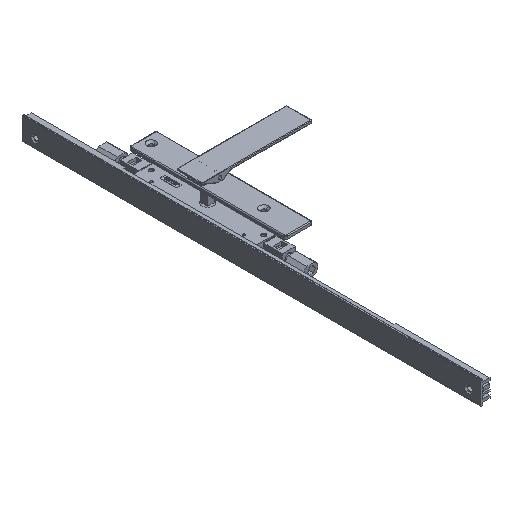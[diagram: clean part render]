
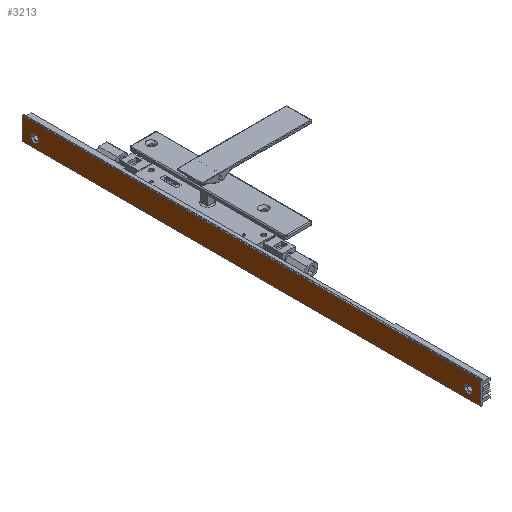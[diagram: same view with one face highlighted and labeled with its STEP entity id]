
A CAD part, isometric view. The second image highlights one B-rep face of the part: STEP entity #3213.
In plain terms, the highlighted planar face has unit normal (-1, 0, 0) as drawn and (0, 1, 0) by its records, which use the part's own axes.
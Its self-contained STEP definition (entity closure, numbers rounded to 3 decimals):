
#83 = ORIENTED_EDGE ( 'NONE', *, *, #19153, .F. ) ;
#342 = VERTEX_POINT ( 'NONE', #1711 ) ;
#411 = DIRECTION ( 'NONE',  ( 1., 0., 0. ) ) ;
#812 = FACE_BOUND ( 'NONE', #3819, .T. ) ;
#846 = CARTESIAN_POINT ( 'NONE',  ( 11.8, 12.4, 533.889 ) ) ;
#1057 = CARTESIAN_POINT ( 'NONE',  ( -4.4, 12.4, 0. ) ) ;
#1339 = VERTEX_POINT ( 'NONE', #5225 ) ;
#1711 = CARTESIAN_POINT ( 'NONE',  ( 22., 12.4, 0. ) ) ;
#1959 = VERTEX_POINT ( 'NONE', #16369 ) ;
#1973 = EDGE_CURVE ( 'NONE', #10733, #1339, #13163, .T. ) ;
#1977 = CARTESIAN_POINT ( 'NONE',  ( 11.8, 12.4, 19.89 ) ) ;
#2176 = CARTESIAN_POINT ( 'NONE',  ( 11.8, 12.4, 529. ) ) ;
#2256 = FACE_BOUND ( 'NONE', #7910, .T. ) ;
#2372 = CARTESIAN_POINT ( 'NONE',  ( 20.8, 12.4, 0. ) ) ;
#2800 = VERTEX_POINT ( 'NONE', #1977 ) ;
#3213 = ADVANCED_FACE ( 'NONE', ( #2256, #812, #12718 ), #16800, .F. ) ;
#3375 = ORIENTED_EDGE ( 'NONE', *, *, #3793, .F. ) ;
#3793 = EDGE_CURVE ( 'NONE', #17468, #18617, #16320, .T. ) ;
#3819 = EDGE_LOOP ( 'NONE', ( #7476, #3375 ) ) ;
#4428 = AXIS2_PLACEMENT_3D ( 'NONE', #15444, #5246, #411 ) ;
#4519 = EDGE_CURVE ( 'NONE', #342, #10733, #7124, .T. ) ;
#5113 = CARTESIAN_POINT ( 'NONE',  ( 22., 12.4, 0. ) ) ;
#5225 = CARTESIAN_POINT ( 'NONE',  ( -4.4, 12.4, 544. ) ) ;
#5246 = DIRECTION ( 'NONE',  ( 0., -1., 0. ) ) ;
#5578 = ORIENTED_EDGE ( 'NONE', *, *, #1973, .T. ) ;
#5842 = EDGE_CURVE ( 'NONE', #18617, #17468, #7924, .T. ) ;
#6221 = ORIENTED_EDGE ( 'NONE', *, *, #11228, .F. ) ;
#6502 = CARTESIAN_POINT ( 'NONE',  ( 11.8, 12.4, 15. ) ) ;
#6824 = EDGE_LOOP ( 'NONE', ( #18471, #5578, #6221, #12314 ) ) ;
#7124 = LINE ( 'NONE', #2372, #13899 ) ;
#7476 = ORIENTED_EDGE ( 'NONE', *, *, #5842, .F. ) ;
#7495 = CARTESIAN_POINT ( 'NONE',  ( 22., 12.4, 544. ) ) ;
#7823 = DIRECTION ( 'NONE',  ( 0., 0., 1. ) ) ;
#7910 = EDGE_LOOP ( 'NONE', ( #15127, #83 ) ) ;
#7924 = CIRCLE ( 'NONE', #16989, 4.889 ) ;
#8763 = DIRECTION ( 'NONE',  ( 0., 0., 1. ) ) ;
#8981 = AXIS2_PLACEMENT_3D ( 'NONE', #11858, #15702, #11294 ) ;
#9018 = DIRECTION ( 'NONE',  ( 0., 0., 1. ) ) ;
#9488 = CARTESIAN_POINT ( 'NONE',  ( 20.8, 12.4, 544. ) ) ;
#10223 = EDGE_CURVE ( 'NONE', #2800, #1959, #10252, .T. ) ;
#10251 = VECTOR ( 'NONE', #13410, 1000. ) ;
#10252 = CIRCLE ( 'NONE', #18366, 4.89 ) ;
#10454 = LINE ( 'NONE', #5113, #10251 ) ;
#10733 = VERTEX_POINT ( 'NONE', #12566 ) ;
#11228 = EDGE_CURVE ( 'NONE', #14865, #1339, #13925, .T. ) ;
#11294 = DIRECTION ( 'NONE',  ( 0., 0., 1. ) ) ;
#11858 = CARTESIAN_POINT ( 'NONE',  ( 11.8, 12.4, 15. ) ) ;
#11881 = EDGE_CURVE ( 'NONE', #342, #14865, #10454, .T. ) ;
#12112 = CIRCLE ( 'NONE', #8981, 4.89 ) ;
#12132 = CARTESIAN_POINT ( 'NONE',  ( 11.8, 12.4, 524.111 ) ) ;
#12146 = DIRECTION ( 'NONE',  ( 0., 1., 0. ) ) ;
#12314 = ORIENTED_EDGE ( 'NONE', *, *, #11881, .F. ) ;
#12512 = DIRECTION ( 'NONE',  ( 0., 0., 1. ) ) ;
#12566 = CARTESIAN_POINT ( 'NONE',  ( -4.4, 12.4, 0. ) ) ;
#12718 = FACE_OUTER_BOUND ( 'NONE', #6824, .T. ) ;
#13076 = CARTESIAN_POINT ( 'NONE',  ( 11.8, 12.4, 529. ) ) ;
#13163 = LINE ( 'NONE', #1057, #19088 ) ;
#13410 = DIRECTION ( 'NONE',  ( 0., 0., 1. ) ) ;
#13688 = VECTOR ( 'NONE', #15459, 1000. ) ;
#13899 = VECTOR ( 'NONE', #19038, 1000. ) ;
#13925 = LINE ( 'NONE', #9488, #13688 ) ;
#14865 = VERTEX_POINT ( 'NONE', #7495 ) ;
#15044 = DIRECTION ( 'NONE',  ( 0., 1., 0. ) ) ;
#15111 = AXIS2_PLACEMENT_3D ( 'NONE', #2176, #18192, #7823 ) ;
#15127 = ORIENTED_EDGE ( 'NONE', *, *, #10223, .F. ) ;
#15444 = CARTESIAN_POINT ( 'NONE',  ( 20.8, 12.4, 544. ) ) ;
#15459 = DIRECTION ( 'NONE',  ( -1., 0., 0. ) ) ;
#15702 = DIRECTION ( 'NONE',  ( 0., 1., 0. ) ) ;
#16320 = CIRCLE ( 'NONE', #15111, 4.889 ) ;
#16369 = CARTESIAN_POINT ( 'NONE',  ( 11.8, 12.4, 10.111 ) ) ;
#16800 = PLANE ( 'NONE',  #4428 ) ;
#16989 = AXIS2_PLACEMENT_3D ( 'NONE', #13076, #12146, #9018 ) ;
#17468 = VERTEX_POINT ( 'NONE', #12132 ) ;
#18192 = DIRECTION ( 'NONE',  ( 0., 1., 0. ) ) ;
#18366 = AXIS2_PLACEMENT_3D ( 'NONE', #6502, #15044, #12512 ) ;
#18471 = ORIENTED_EDGE ( 'NONE', *, *, #4519, .T. ) ;
#18617 = VERTEX_POINT ( 'NONE', #846 ) ;
#19038 = DIRECTION ( 'NONE',  ( -1., 0., 0. ) ) ;
#19088 = VECTOR ( 'NONE', #8763, 1000. ) ;
#19153 = EDGE_CURVE ( 'NONE', #1959, #2800, #12112, .T. ) ;
